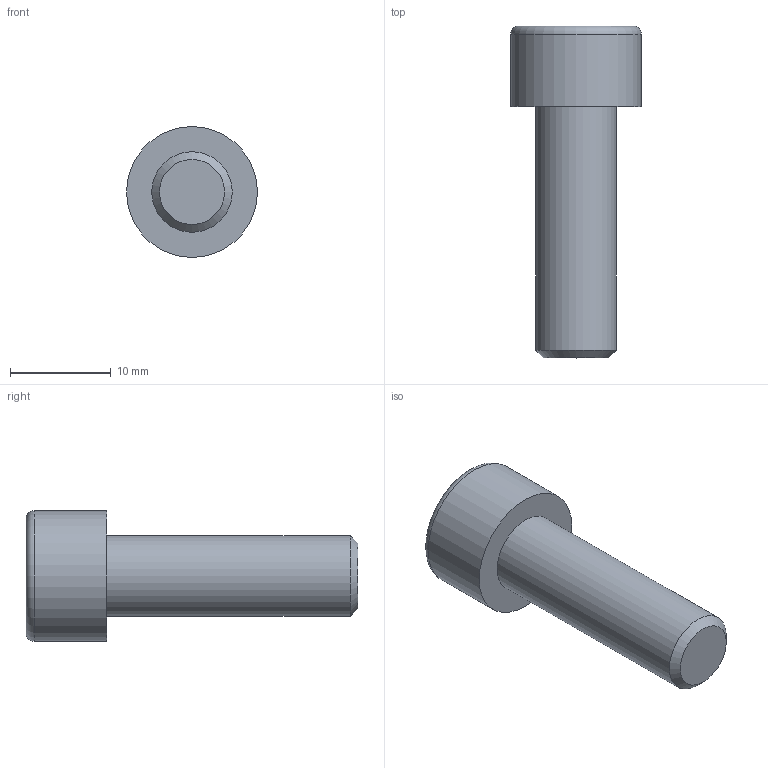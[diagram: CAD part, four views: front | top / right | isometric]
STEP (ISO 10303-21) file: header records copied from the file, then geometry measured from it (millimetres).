
FILE_DESCRIPTION(/* description */ (''),/* implementation_level */ '2;1');
FILE_NAME(/* name */ 'C:\Users\D\Documents\Inventor\各種小物\JIS\JIS B 1176 六角穴付きボルト\M8x25.stp',/* time_stamp */ '2022-05-09T18:52:33+09:00',/* author */ ('D'),/* organization */ (''),/* preprocessor_version */ 'ST-DEVELOPER v18',/* originating_system */ 'Autodesk Inventor 2020',/* authorisation */ '');
FILE_SCHEMA (('AUTOMOTIVE_DESIGN { 1 0 10303 214 3 1 1 }'));
Length unit declared in the file: millimetre
Products named in the file (1): M1.6x2.5
Bounding box: 13 x 33 x 13 mm (x, y, z)
Volume: 2156.9 mm3; surface area: 1285.7 mm2
Topology: 1 solids, 1 shells, 14 faces, 33 edges, 22 vertices
Faces by surface type: plane 9, cone 2, cylinder 2, torus 1
Full cylindrical faces by diameter (mm): 8 x1, 13 x1
Entity records: 435 total; most frequent: CARTESIAN_POINT 83, ORIENTED_EDGE 64, DIRECTION 64, EDGE_CURVE 32, AXIS2_PLACEMENT_3D 24, VERTEX_POINT 22, EDGE_LOOP 16, LINE 16
